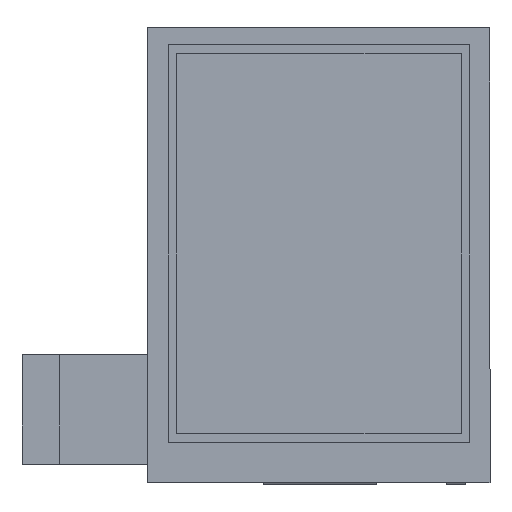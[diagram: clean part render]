
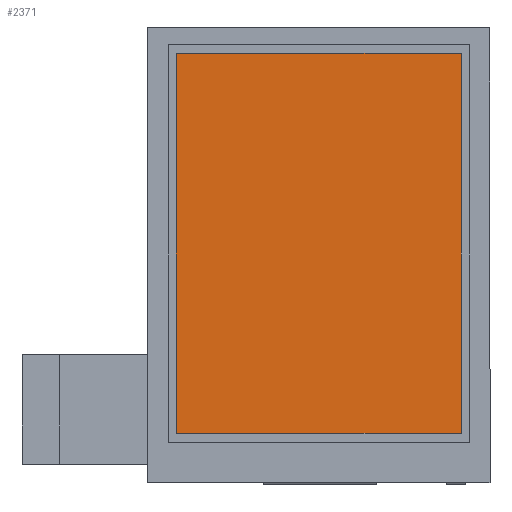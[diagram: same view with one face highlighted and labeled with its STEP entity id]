
A CAD part, top view. The second image highlights one B-rep face of the part: STEP entity #2371.
In plain terms, the highlighted planar face has unit normal (0, 0, 1).
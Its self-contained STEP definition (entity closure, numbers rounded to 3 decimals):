
#127 = VECTOR ( 'NONE', #5086, 1000. ) ;
#181 = FACE_OUTER_BOUND ( 'NONE', #1871, .T. ) ;
#397 = CARTESIAN_POINT ( 'NONE',  ( 0., -35.52, 3.1 ) ) ;
#412 = CARTESIAN_POINT ( 'NONE',  ( 26.64, 0., 3.1 ) ) ;
#869 = VERTEX_POINT ( 'NONE', #7455 ) ;
#1415 = CARTESIAN_POINT ( 'NONE',  ( -26.64, 0., 3.1 ) ) ;
#1508 = VERTEX_POINT ( 'NONE', #9312 ) ;
#1588 = ORIENTED_EDGE ( 'NONE', *, *, #6650, .F. ) ;
#1871 = EDGE_LOOP ( 'NONE', ( #2953, #7193, #4590, #1588 ) ) ;
#1968 = LINE ( 'NONE', #397, #5374 ) ;
#2371 = ADVANCED_FACE ( 'NONE', ( #181 ), #4027, .T. ) ;
#2553 = DIRECTION ( 'NONE',  ( 0., 0., 1. ) ) ;
#2663 = EDGE_CURVE ( 'NONE', #869, #1508, #1968, .T. ) ;
#2809 = DIRECTION ( 'NONE',  ( 0., -1., 0. ) ) ;
#2927 = LINE ( 'NONE', #3714, #6394 ) ;
#2953 = ORIENTED_EDGE ( 'NONE', *, *, #3701, .F. ) ;
#3267 = DIRECTION ( 'NONE',  ( -1., 0., 0. ) ) ;
#3386 = DIRECTION ( 'NONE',  ( 1., 0., 0. ) ) ;
#3701 = EDGE_CURVE ( 'NONE', #1508, #4928, #8099, .T. ) ;
#3714 = CARTESIAN_POINT ( 'NONE',  ( 0., 35.52, 3.1 ) ) ;
#4027 = PLANE ( 'NONE',  #8374 ) ;
#4590 = ORIENTED_EDGE ( 'NONE', *, *, #9348, .F. ) ;
#4732 = CARTESIAN_POINT ( 'NONE',  ( -26.64, 35.52, 3.1 ) ) ;
#4928 = VERTEX_POINT ( 'NONE', #4732 ) ;
#5086 = DIRECTION ( 'NONE',  ( 0., 1., 0. ) ) ;
#5374 = VECTOR ( 'NONE', #3267, 1000. ) ;
#5577 = LINE ( 'NONE', #412, #9444 ) ;
#5773 = CARTESIAN_POINT ( 'NONE',  ( 26.64, 35.52, 3.1 ) ) ;
#6394 = VECTOR ( 'NONE', #8994, 1000. ) ;
#6650 = EDGE_CURVE ( 'NONE', #4928, #8470, #2927, .T. ) ;
#7193 = ORIENTED_EDGE ( 'NONE', *, *, #2663, .F. ) ;
#7455 = CARTESIAN_POINT ( 'NONE',  ( 26.64, -35.52, 3.1 ) ) ;
#8099 = LINE ( 'NONE', #1415, #127 ) ;
#8374 = AXIS2_PLACEMENT_3D ( 'NONE', #9317, #2553, #3386 ) ;
#8470 = VERTEX_POINT ( 'NONE', #5773 ) ;
#8994 = DIRECTION ( 'NONE',  ( 1., 0., 0. ) ) ;
#9312 = CARTESIAN_POINT ( 'NONE',  ( -26.64, -35.52, 3.1 ) ) ;
#9317 = CARTESIAN_POINT ( 'NONE',  ( 0., 0., 3.1 ) ) ;
#9348 = EDGE_CURVE ( 'NONE', #8470, #869, #5577, .T. ) ;
#9444 = VECTOR ( 'NONE', #2809, 1000. ) ;
